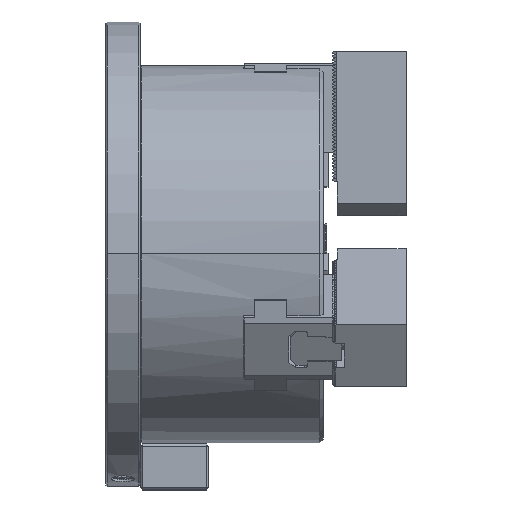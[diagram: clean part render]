
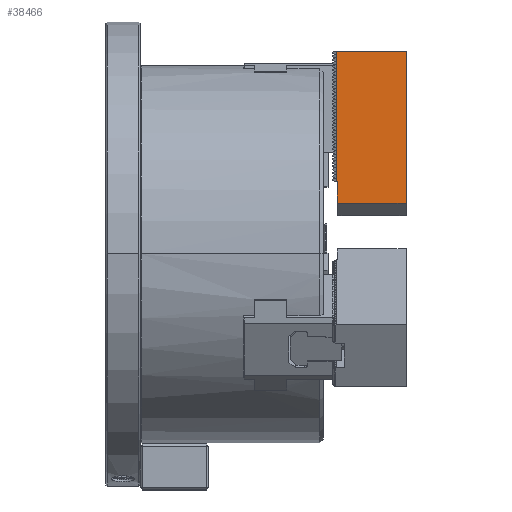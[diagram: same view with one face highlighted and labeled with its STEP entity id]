
A CAD part, top view. The second image highlights one B-rep face of the part: STEP entity #38466.
In plain terms, the highlighted planar face has unit normal (0, 0, 1).
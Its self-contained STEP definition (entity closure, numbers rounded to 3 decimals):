
#951 = LINE ( 'NONE', #74986, #53724 ) ;
#1590 = PLANE ( 'NONE',  #6581 ) ;
#5684 = CARTESIAN_POINT ( 'NONE',  ( -15., 2., 15.5 ) ) ;
#6302 = EDGE_CURVE ( 'NONE', #56834, #34807, #951, .T. ) ;
#6581 = AXIS2_PLACEMENT_3D ( 'NONE', #51498, #45453, #57557 ) ;
#6846 = VECTOR ( 'NONE', #57861, 1000. ) ;
#9574 = DIRECTION ( 'NONE',  ( 1., 0., 0. ) ) ;
#9994 = ORIENTED_EDGE ( 'NONE', *, *, #56982, .F. ) ;
#11373 = EDGE_CURVE ( 'NONE', #56834, #80425, #65625, .T. ) ;
#11718 = CARTESIAN_POINT ( 'NONE',  ( -72., 32., 15.5 ) ) ;
#12714 = VECTOR ( 'NONE', #31627, 1000. ) ;
#15142 = ORIENTED_EDGE ( 'NONE', *, *, #11373, .F. ) ;
#16113 = LINE ( 'NONE', #20473, #59967 ) ;
#20321 = CARTESIAN_POINT ( 'NONE',  ( -5.485, 2., 15.5 ) ) ;
#20473 = CARTESIAN_POINT ( 'NONE',  ( -72., 1.4, 15.5 ) ) ;
#28865 = FACE_OUTER_BOUND ( 'NONE', #31083, .T. ) ;
#31083 = EDGE_LOOP ( 'NONE', ( #42887, #9994, #80225, #15142, #47954, #41499 ) ) ;
#31627 = DIRECTION ( 'NONE',  ( 0., 1., 0. ) ) ;
#32517 = VERTEX_POINT ( 'NONE', #72226 ) ;
#33083 = EDGE_CURVE ( 'NONE', #34807, #32517, #16113, .T. ) ;
#33999 = EDGE_CURVE ( 'NONE', #65002, #32517, #78409, .T. ) ;
#34570 = CARTESIAN_POINT ( 'NONE',  ( -5.485, 32., 15.5 ) ) ;
#34807 = VERTEX_POINT ( 'NONE', #53830 ) ;
#36554 = VERTEX_POINT ( 'NONE', #20321 ) ;
#37305 = CARTESIAN_POINT ( 'NONE',  ( -5.485, 0., 15.5 ) ) ;
#38466 = ADVANCED_FACE ( 'NONE', ( #28865 ), #1590, .T. ) ;
#39947 = LINE ( 'NONE', #45181, #6846 ) ;
#41499 = ORIENTED_EDGE ( 'NONE', *, *, #33083, .T. ) ;
#42887 = ORIENTED_EDGE ( 'NONE', *, *, #33999, .F. ) ;
#45181 = CARTESIAN_POINT ( 'NONE',  ( 0., 2., 15.5 ) ) ;
#45453 = DIRECTION ( 'NONE',  ( 0., 0., 1. ) ) ;
#47763 = LINE ( 'NONE', #37305, #12714 ) ;
#47954 = ORIENTED_EDGE ( 'NONE', *, *, #6302, .T. ) ;
#50865 = VECTOR ( 'NONE', #55607, 1000. ) ;
#51498 = CARTESIAN_POINT ( 'NONE',  ( -72., 32., 15.5 ) ) ;
#53724 = VECTOR ( 'NONE', #73317, 1000. ) ;
#53830 = CARTESIAN_POINT ( 'NONE',  ( -72., 1.4, 15.5 ) ) ;
#55607 = DIRECTION ( 'NONE',  ( 1., 0., 0. ) ) ;
#56834 = VERTEX_POINT ( 'NONE', #72433 ) ;
#56982 = EDGE_CURVE ( 'NONE', #36554, #65002, #39947, .T. ) ;
#57557 = DIRECTION ( 'NONE',  ( 0., -1., 0. ) ) ;
#57861 = DIRECTION ( 'NONE',  ( -1., 0., 0. ) ) ;
#59967 = VECTOR ( 'NONE', #9574, 1000. ) ;
#63583 = CARTESIAN_POINT ( 'NONE',  ( -15., 2., 15.5 ) ) ;
#63679 = VECTOR ( 'NONE', #63859, 1000. ) ;
#63859 = DIRECTION ( 'NONE',  ( 0., -1., 0. ) ) ;
#65002 = VERTEX_POINT ( 'NONE', #5684 ) ;
#65625 = LINE ( 'NONE', #11718, #50865 ) ;
#67497 = EDGE_CURVE ( 'NONE', #36554, #80425, #47763, .T. ) ;
#72226 = CARTESIAN_POINT ( 'NONE',  ( -15., 1.4, 15.5 ) ) ;
#72433 = CARTESIAN_POINT ( 'NONE',  ( -72., 32., 15.5 ) ) ;
#73317 = DIRECTION ( 'NONE',  ( 0., -1., 0. ) ) ;
#74986 = CARTESIAN_POINT ( 'NONE',  ( -72., 32., 15.5 ) ) ;
#78409 = LINE ( 'NONE', #63583, #63679 ) ;
#80225 = ORIENTED_EDGE ( 'NONE', *, *, #67497, .T. ) ;
#80425 = VERTEX_POINT ( 'NONE', #34570 ) ;
